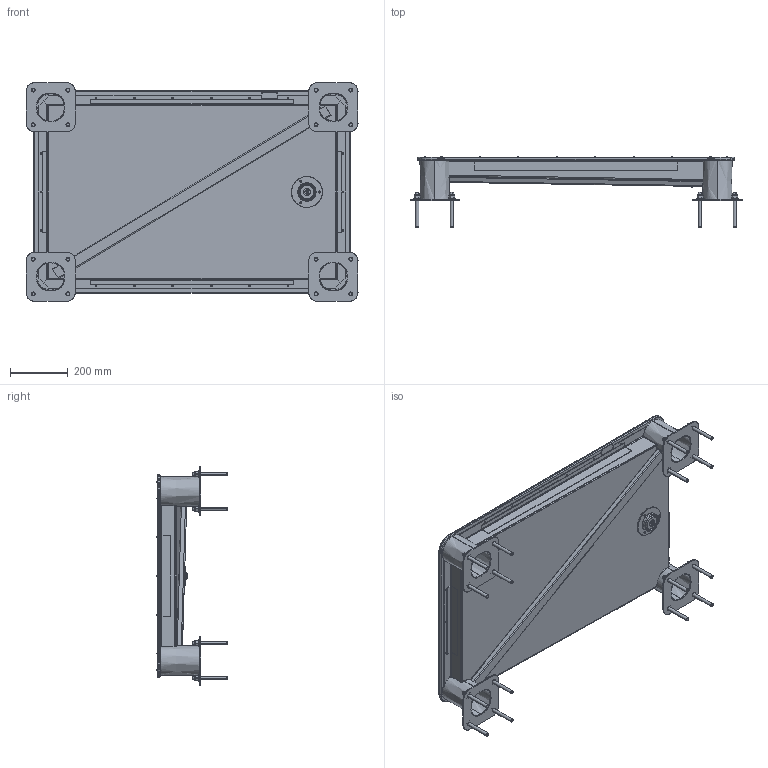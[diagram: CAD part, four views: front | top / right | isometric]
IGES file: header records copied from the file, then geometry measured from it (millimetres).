
Start section: SolidWorks IGES file using analytic representation for surfaces
Global section: file name: C:\Users\user18\OneDrive - KBT\Pulpit\KORONA-KOPIA\Water_Arek_Karol\XXX. Basic Water System\570.202.010.01x Mud Pool - 15cm\11. Modele 3D dla klientów\570.202.010.011 - Mud pool 15cm FA.IGS; native system: SolidWorks 2018; preprocessor: SolidWorks 2018; author: user18; date: 210325.092017; units: millimetre
Bounding box: 1148 x 242.1 x 755 mm (x, y, z)
Surface area: 2912289.1 mm2 (no closed solid volume)
Topology: 0 solids, 0 shells, 1101 faces, 15036 edges, 15010 vertices
Faces by surface type: revolution 554, bspline 547
